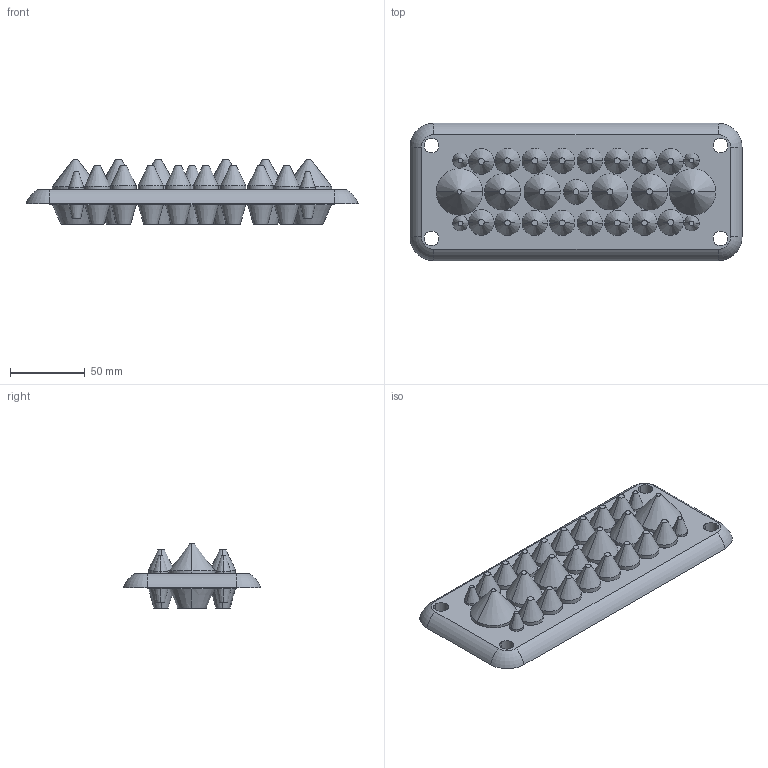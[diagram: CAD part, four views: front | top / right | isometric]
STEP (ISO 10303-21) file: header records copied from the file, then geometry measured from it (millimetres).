
FILE_DESCRIPTION (( 'STEP AP203' ), '1' );
FILE_NAME ('105042.STEP', '2012-12-04T09:47:21', ( 'Joni' ), ( 'Hewlett-Packard Company' ), 'SwSTEP 2.0', 'SolidWorks 2012', '' );
FILE_SCHEMA (( 'CONFIG_CONTROL_DESIGN' ));
Length unit declared in the file: millimetre
Products named in the file (1): 105042
Bounding box: 221.75 x 91.75 x 43 mm (x, y, z)
Volume: 262477.4 mm3; surface area: 82510.4 mm2
Topology: 1 solids, 1 shells, 355 faces, 786 edges, 461 vertices
Faces by surface type: cone 162, cylinder 122, plane 59, torus 12
Entity records: 9589 total; most frequent: DIRECTION 1882, CARTESIAN_POINT 1549, ORIENTED_EDGE 1464, AXIS2_PLACEMENT_3D 794, EDGE_CURVE 732, VERTEX_POINT 461, EDGE_LOOP 445, CIRCLE 438
